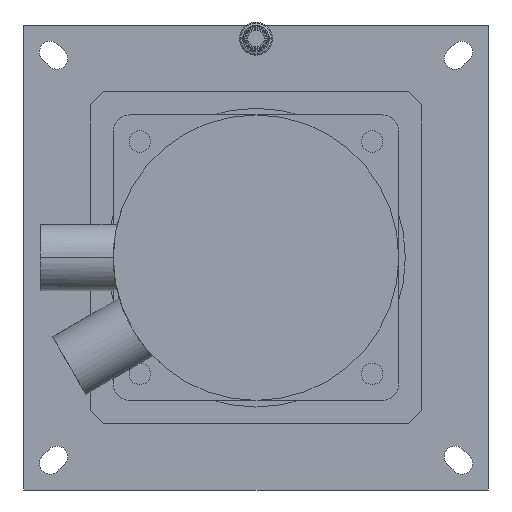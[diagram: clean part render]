
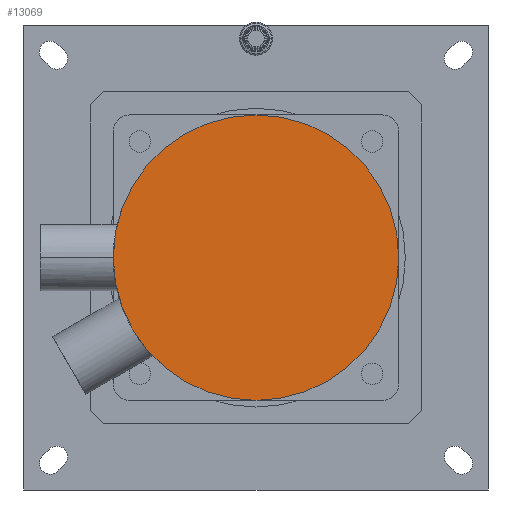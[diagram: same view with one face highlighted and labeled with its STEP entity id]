
A CAD part, front view. The second image highlights one B-rep face of the part: STEP entity #13069.
In plain terms, the highlighted planar face has unit normal (0, -1, 0) as drawn and (0, 0, -1) by its records, which use the part's own axes.
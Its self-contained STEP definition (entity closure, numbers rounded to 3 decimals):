
#592 = ORIENTED_EDGE ( 'NONE', *, *, #10285, .T. ) ;
#894 = AXIS2_PLACEMENT_3D ( 'NONE', #6326, #14928, #8820 ) ;
#1539 = DIRECTION ( 'NONE',  ( 0., 0., -1. ) ) ;
#3149 = ORIENTED_EDGE ( 'NONE', *, *, #11280, .T. ) ;
#3389 = CARTESIAN_POINT ( 'NONE',  ( -43., 0., -86. ) ) ;
#4021 = CIRCLE ( 'NONE', #11824, 43. ) ;
#5363 = CARTESIAN_POINT ( 'NONE',  ( 0., 0., -86. ) ) ;
#6326 = CARTESIAN_POINT ( 'NONE',  ( 0., 0., -86. ) ) ;
#6618 = DIRECTION ( 'NONE',  ( -1., 0., 0. ) ) ;
#7124 = VERTEX_POINT ( 'NONE', #3389 ) ;
#7585 = PLANE ( 'NONE',  #894 ) ;
#8175 = AXIS2_PLACEMENT_3D ( 'NONE', #5363, #14030, #6618 ) ;
#8290 = EDGE_LOOP ( 'NONE', ( #592, #3149 ) ) ;
#8820 = DIRECTION ( 'NONE',  ( -1., 0., 0. ) ) ;
#8998 = VERTEX_POINT ( 'NONE', #12861 ) ;
#9067 = CARTESIAN_POINT ( 'NONE',  ( 0., 0., -86. ) ) ;
#10285 = EDGE_CURVE ( 'NONE', #8998, #7124, #4021, .T. ) ;
#10316 = DIRECTION ( 'NONE',  ( -1., 0., 0. ) ) ;
#11280 = EDGE_CURVE ( 'NONE', #7124, #8998, #14475, .T. ) ;
#11824 = AXIS2_PLACEMENT_3D ( 'NONE', #9067, #1539, #10316 ) ;
#12861 = CARTESIAN_POINT ( 'NONE',  ( 43., 0., -86. ) ) ;
#13069 = ADVANCED_FACE ( 'NONE', ( #15770 ), #7585, .T. ) ;
#14030 = DIRECTION ( 'NONE',  ( 0., 0., -1. ) ) ;
#14475 = CIRCLE ( 'NONE', #8175, 43. ) ;
#14928 = DIRECTION ( 'NONE',  ( 0., 0., -1. ) ) ;
#15770 = FACE_OUTER_BOUND ( 'NONE', #8290, .T. ) ;
